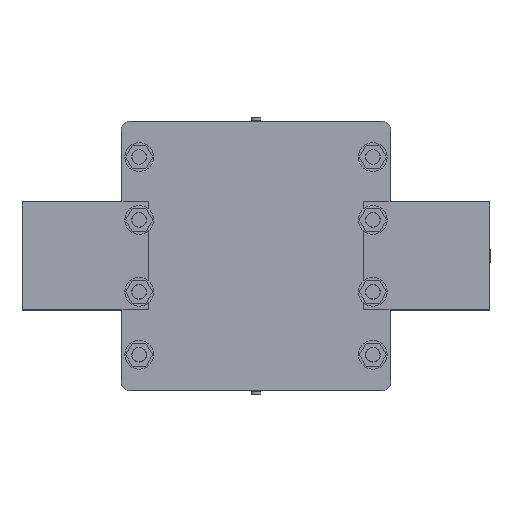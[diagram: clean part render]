
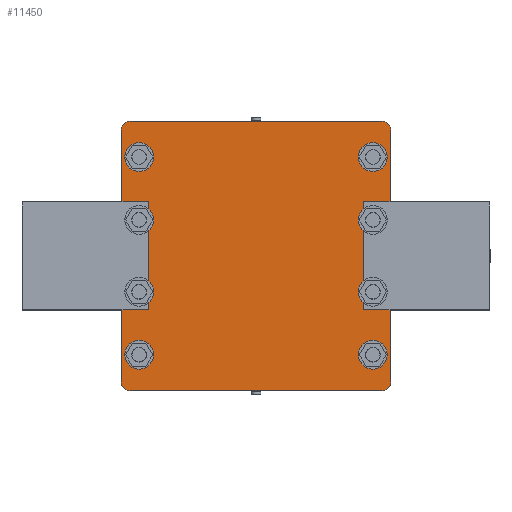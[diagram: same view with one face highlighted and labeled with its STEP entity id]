
A CAD part, top view. The second image highlights one B-rep face of the part: STEP entity #11450.
In plain terms, the highlighted planar face has unit normal (0, 0, 1).
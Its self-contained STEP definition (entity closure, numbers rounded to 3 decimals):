
#11190 = VERTEX_POINT('',#11191);
#11191 = CARTESIAN_POINT('',(-70.,-75.,12.));
#11197 = EDGE_CURVE('',#11190,#11198,#11200,.T.);
#11198 = VERTEX_POINT('',#11199);
#11199 = CARTESIAN_POINT('',(70.,-75.,12.));
#11200 = LINE('',#11201,#11202);
#11201 = CARTESIAN_POINT('',(-70.,-75.,12.));
#11202 = VECTOR('',#11203,1.);
#11203 = DIRECTION('',(1.,0.,0.));
#11230 = VERTEX_POINT('',#11231);
#11231 = CARTESIAN_POINT('',(-75.,-70.,12.));
#11237 = EDGE_CURVE('',#11230,#11190,#11238,.T.);
#11238 = CIRCLE('',#11239,5.);
#11239 = AXIS2_PLACEMENT_3D('',#11240,#11241,#11242);
#11240 = CARTESIAN_POINT('',(-70.,-70.,12.));
#11241 = DIRECTION('',(0.,0.,1.));
#11242 = DIRECTION('',(1.,0.,0.));
#11261 = EDGE_CURVE('',#11198,#11262,#11264,.T.);
#11262 = VERTEX_POINT('',#11263);
#11263 = CARTESIAN_POINT('',(75.,-70.,12.));
#11264 = CIRCLE('',#11265,5.);
#11265 = AXIS2_PLACEMENT_3D('',#11266,#11267,#11268);
#11266 = CARTESIAN_POINT('',(70.,-70.,12.));
#11267 = DIRECTION('',(0.,0.,1.));
#11268 = DIRECTION('',(1.,0.,0.));
#11450 = ADVANCED_FACE('',(#11451,#11496,#11507,#11518,#11529,#11540,
    #11551,#11562,#11573),#11584,.T.);
#11451 = FACE_BOUND('',#11452,.T.);
#11452 = EDGE_LOOP('',(#11453,#11454,#11455,#11463,#11472,#11480,#11489,
    #11495));
#11453 = ORIENTED_EDGE('',*,*,#11197,.T.);
#11454 = ORIENTED_EDGE('',*,*,#11261,.T.);
#11455 = ORIENTED_EDGE('',*,*,#11456,.T.);
#11456 = EDGE_CURVE('',#11262,#11457,#11459,.T.);
#11457 = VERTEX_POINT('',#11458);
#11458 = CARTESIAN_POINT('',(75.,70.,12.));
#11459 = LINE('',#11460,#11461);
#11460 = CARTESIAN_POINT('',(75.,-70.,12.));
#11461 = VECTOR('',#11462,1.);
#11462 = DIRECTION('',(0.,1.,0.));
#11463 = ORIENTED_EDGE('',*,*,#11464,.T.);
#11464 = EDGE_CURVE('',#11457,#11465,#11467,.T.);
#11465 = VERTEX_POINT('',#11466);
#11466 = CARTESIAN_POINT('',(70.,75.,12.));
#11467 = CIRCLE('',#11468,5.);
#11468 = AXIS2_PLACEMENT_3D('',#11469,#11470,#11471);
#11469 = CARTESIAN_POINT('',(70.,70.,12.));
#11470 = DIRECTION('',(0.,0.,1.));
#11471 = DIRECTION('',(1.,0.,0.));
#11472 = ORIENTED_EDGE('',*,*,#11473,.T.);
#11473 = EDGE_CURVE('',#11465,#11474,#11476,.T.);
#11474 = VERTEX_POINT('',#11475);
#11475 = CARTESIAN_POINT('',(-70.,75.,12.));
#11476 = LINE('',#11477,#11478);
#11477 = CARTESIAN_POINT('',(70.,75.,12.));
#11478 = VECTOR('',#11479,1.);
#11479 = DIRECTION('',(-1.,0.,0.));
#11480 = ORIENTED_EDGE('',*,*,#11481,.T.);
#11481 = EDGE_CURVE('',#11474,#11482,#11484,.T.);
#11482 = VERTEX_POINT('',#11483);
#11483 = CARTESIAN_POINT('',(-75.,70.,12.));
#11484 = CIRCLE('',#11485,5.);
#11485 = AXIS2_PLACEMENT_3D('',#11486,#11487,#11488);
#11486 = CARTESIAN_POINT('',(-70.,70.,12.));
#11487 = DIRECTION('',(0.,0.,1.));
#11488 = DIRECTION('',(1.,0.,0.));
#11489 = ORIENTED_EDGE('',*,*,#11490,.T.);
#11490 = EDGE_CURVE('',#11482,#11230,#11491,.T.);
#11491 = LINE('',#11492,#11493);
#11492 = CARTESIAN_POINT('',(-75.,70.,12.));
#11493 = VECTOR('',#11494,1.);
#11494 = DIRECTION('',(0.,-1.,0.));
#11495 = ORIENTED_EDGE('',*,*,#11237,.T.);
#11496 = FACE_BOUND('',#11497,.T.);
#11497 = EDGE_LOOP('',(#11498));
#11498 = ORIENTED_EDGE('',*,*,#11499,.F.);
#11499 = EDGE_CURVE('',#11500,#11500,#11502,.T.);
#11500 = VERTEX_POINT('',#11501);
#11501 = CARTESIAN_POINT('',(-60.5,-55.,12.));
#11502 = CIRCLE('',#11503,4.5);
#11503 = AXIS2_PLACEMENT_3D('',#11504,#11505,#11506);
#11504 = CARTESIAN_POINT('',(-65.,-55.,12.));
#11505 = DIRECTION('',(0.,0.,1.));
#11506 = DIRECTION('',(1.,0.,0.));
#11507 = FACE_BOUND('',#11508,.T.);
#11508 = EDGE_LOOP('',(#11509));
#11509 = ORIENTED_EDGE('',*,*,#11510,.F.);
#11510 = EDGE_CURVE('',#11511,#11511,#11513,.T.);
#11511 = VERTEX_POINT('',#11512);
#11512 = CARTESIAN_POINT('',(-60.5,-20.,12.));
#11513 = CIRCLE('',#11514,4.5);
#11514 = AXIS2_PLACEMENT_3D('',#11515,#11516,#11517);
#11515 = CARTESIAN_POINT('',(-65.,-20.,12.));
#11516 = DIRECTION('',(0.,0.,1.));
#11517 = DIRECTION('',(1.,0.,0.));
#11518 = FACE_BOUND('',#11519,.T.);
#11519 = EDGE_LOOP('',(#11520));
#11520 = ORIENTED_EDGE('',*,*,#11521,.F.);
#11521 = EDGE_CURVE('',#11522,#11522,#11524,.T.);
#11522 = VERTEX_POINT('',#11523);
#11523 = CARTESIAN_POINT('',(69.5,-55.,12.));
#11524 = CIRCLE('',#11525,4.5);
#11525 = AXIS2_PLACEMENT_3D('',#11526,#11527,#11528);
#11526 = CARTESIAN_POINT('',(65.,-55.,12.));
#11527 = DIRECTION('',(0.,0.,1.));
#11528 = DIRECTION('',(1.,0.,0.));
#11529 = FACE_BOUND('',#11530,.T.);
#11530 = EDGE_LOOP('',(#11531));
#11531 = ORIENTED_EDGE('',*,*,#11532,.F.);
#11532 = EDGE_CURVE('',#11533,#11533,#11535,.T.);
#11533 = VERTEX_POINT('',#11534);
#11534 = CARTESIAN_POINT('',(69.5,-20.,12.));
#11535 = CIRCLE('',#11536,4.5);
#11536 = AXIS2_PLACEMENT_3D('',#11537,#11538,#11539);
#11537 = CARTESIAN_POINT('',(65.,-20.,12.));
#11538 = DIRECTION('',(0.,0.,1.));
#11539 = DIRECTION('',(1.,0.,0.));
#11540 = FACE_BOUND('',#11541,.T.);
#11541 = EDGE_LOOP('',(#11542));
#11542 = ORIENTED_EDGE('',*,*,#11543,.F.);
#11543 = EDGE_CURVE('',#11544,#11544,#11546,.T.);
#11544 = VERTEX_POINT('',#11545);
#11545 = CARTESIAN_POINT('',(-60.5,20.,12.));
#11546 = CIRCLE('',#11547,4.5);
#11547 = AXIS2_PLACEMENT_3D('',#11548,#11549,#11550);
#11548 = CARTESIAN_POINT('',(-65.,20.,12.));
#11549 = DIRECTION('',(0.,0.,1.));
#11550 = DIRECTION('',(1.,0.,0.));
#11551 = FACE_BOUND('',#11552,.T.);
#11552 = EDGE_LOOP('',(#11553));
#11553 = ORIENTED_EDGE('',*,*,#11554,.F.);
#11554 = EDGE_CURVE('',#11555,#11555,#11557,.T.);
#11555 = VERTEX_POINT('',#11556);
#11556 = CARTESIAN_POINT('',(-60.5,55.,12.));
#11557 = CIRCLE('',#11558,4.5);
#11558 = AXIS2_PLACEMENT_3D('',#11559,#11560,#11561);
#11559 = CARTESIAN_POINT('',(-65.,55.,12.));
#11560 = DIRECTION('',(0.,0.,1.));
#11561 = DIRECTION('',(1.,0.,0.));
#11562 = FACE_BOUND('',#11563,.T.);
#11563 = EDGE_LOOP('',(#11564));
#11564 = ORIENTED_EDGE('',*,*,#11565,.F.);
#11565 = EDGE_CURVE('',#11566,#11566,#11568,.T.);
#11566 = VERTEX_POINT('',#11567);
#11567 = CARTESIAN_POINT('',(69.5,20.,12.));
#11568 = CIRCLE('',#11569,4.5);
#11569 = AXIS2_PLACEMENT_3D('',#11570,#11571,#11572);
#11570 = CARTESIAN_POINT('',(65.,20.,12.));
#11571 = DIRECTION('',(0.,0.,1.));
#11572 = DIRECTION('',(1.,0.,0.));
#11573 = FACE_BOUND('',#11574,.T.);
#11574 = EDGE_LOOP('',(#11575));
#11575 = ORIENTED_EDGE('',*,*,#11576,.F.);
#11576 = EDGE_CURVE('',#11577,#11577,#11579,.T.);
#11577 = VERTEX_POINT('',#11578);
#11578 = CARTESIAN_POINT('',(69.5,55.,12.));
#11579 = CIRCLE('',#11580,4.5);
#11580 = AXIS2_PLACEMENT_3D('',#11581,#11582,#11583);
#11581 = CARTESIAN_POINT('',(65.,55.,12.));
#11582 = DIRECTION('',(0.,0.,1.));
#11583 = DIRECTION('',(1.,0.,0.));
#11584 = PLANE('',#11585);
#11585 = AXIS2_PLACEMENT_3D('',#11586,#11587,#11588);
#11586 = CARTESIAN_POINT('',(0.,0.,12.));
#11587 = DIRECTION('',(0.,0.,1.));
#11588 = DIRECTION('',(1.,0.,0.));
